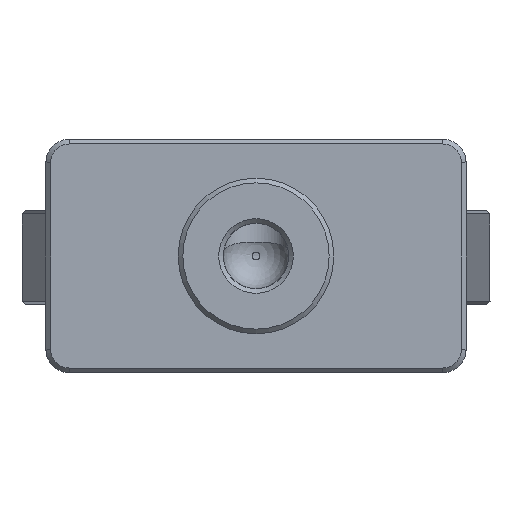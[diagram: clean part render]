
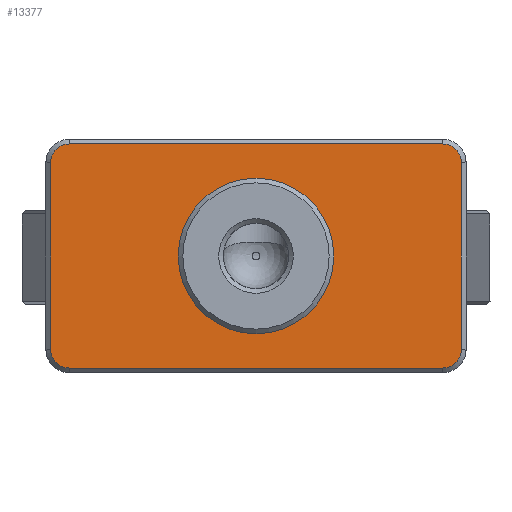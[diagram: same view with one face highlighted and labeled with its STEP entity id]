
A CAD part, front view. The second image highlights one B-rep face of the part: STEP entity #13377.
In plain terms, the highlighted planar face has unit normal (0, -1, 0).
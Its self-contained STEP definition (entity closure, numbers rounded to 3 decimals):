
#7749=FACE_BOUND('',#15604,.T.);
#7750=FACE_BOUND('',#15605,.T.);
#7914=PLANE('',#25966);
#8916=LINE('',#32409,#11130);
#8920=LINE('',#32416,#11134);
#8962=LINE('',#32658,#11176);
#8971=LINE('',#32794,#11185);
#11130=VECTOR('',#27315,1.);
#11134=VECTOR('',#27323,1.);
#11176=VECTOR('',#27483,1.);
#11185=VECTOR('',#27562,1.);
#13377=ADVANCED_FACE('',(#7749,#7750),#7914,.T.);
#15604=EDGE_LOOP('',(#17453,#17454,#17455,#17456,#17457,#17458,#17459,#17460));
#15605=EDGE_LOOP('',(#17461));
#16627=CIRCLE('',#25762,5.);
#16689=CIRCLE('',#25881,1.2);
#16691=CIRCLE('',#25885,1.2);
#16706=CIRCLE('',#25915,1.2);
#16708=CIRCLE('',#25919,1.2);
#17453=ORIENTED_EDGE('',*,*,#23419,.T.);
#17454=ORIENTED_EDGE('',*,*,#23529,.T.);
#17455=ORIENTED_EDGE('',*,*,#23532,.T.);
#17456=ORIENTED_EDGE('',*,*,#23533,.T.);
#17457=ORIENTED_EDGE('',*,*,#23423,.T.);
#17458=ORIENTED_EDGE('',*,*,#23507,.T.);
#17459=ORIENTED_EDGE('',*,*,#23505,.T.);
#17460=ORIENTED_EDGE('',*,*,#23502,.T.);
#17461=ORIENTED_EDGE('',*,*,#23340,.F.);
#21898=VERTEX_POINT('',#32113);
#21962=VERTEX_POINT('',#32408);
#21963=VERTEX_POINT('',#32410);
#21964=VERTEX_POINT('',#32417);
#21965=VERTEX_POINT('',#32418);
#22006=VERTEX_POINT('',#32649);
#22008=VERTEX_POINT('',#32655);
#22016=VERTEX_POINT('',#32788);
#22017=VERTEX_POINT('',#32793);
#23340=EDGE_CURVE('',#21898,#21898,#16627,.T.);
#23419=EDGE_CURVE('',#21963,#21962,#8916,.T.);
#23423=EDGE_CURVE('',#21964,#21965,#8920,.T.);
#23502=EDGE_CURVE('',#22006,#21963,#16689,.T.);
#23505=EDGE_CURVE('',#22008,#22006,#8962,.T.);
#23507=EDGE_CURVE('',#21965,#22008,#16691,.T.);
#23529=EDGE_CURVE('',#21962,#22016,#16706,.T.);
#23532=EDGE_CURVE('',#22016,#22017,#8971,.T.);
#23533=EDGE_CURVE('',#22017,#21964,#16708,.T.);
#25762=AXIS2_PLACEMENT_3D('',#32112,#27161,#27162);
#25881=AXIS2_PLACEMENT_3D('',#32652,#27477,#27478);
#25885=AXIS2_PLACEMENT_3D('',#32661,#27488,#27489);
#25915=AXIS2_PLACEMENT_3D('',#32789,#27555,#27556);
#25919=AXIS2_PLACEMENT_3D('',#32796,#27565,#27566);
#25966=AXIS2_PLACEMENT_3D('',#33039,#27669,#27670);
#27161=DIRECTION('',(0.,-1.,0.));
#27162=DIRECTION('',(0.,0.,-1.));
#27315=DIRECTION('',(0.,0.,-1.));
#27323=DIRECTION('',(0.,0.,1.));
#27477=DIRECTION('',(0.,-1.,0.));
#27478=DIRECTION('',(0.,0.,-1.));
#27483=DIRECTION('',(-1.,0.,0.));
#27488=DIRECTION('',(0.,-1.,0.));
#27489=DIRECTION('',(0.,0.,-1.));
#27555=DIRECTION('',(0.,-1.,0.));
#27556=DIRECTION('',(0.,0.,-1.));
#27562=DIRECTION('',(1.,0.,0.));
#27565=DIRECTION('',(0.,-1.,0.));
#27566=DIRECTION('',(0.,0.,-1.));
#27669=DIRECTION('',(0.,-1.,0.));
#27670=DIRECTION('',(0.,0.,1.));
#32112=CARTESIAN_POINT('',(88.412,-23.942,74.9));
#32113=CARTESIAN_POINT('',(88.412,-23.942,69.9));
#32408=CARTESIAN_POINT('',(75.212,-23.942,68.9));
#32409=CARTESIAN_POINT('',(75.212,-23.942,82.4));
#32410=CARTESIAN_POINT('',(75.212,-23.942,80.9));
#32416=CARTESIAN_POINT('',(101.612,-23.942,82.4));
#32417=CARTESIAN_POINT('',(101.612,-23.942,68.9));
#32418=CARTESIAN_POINT('',(101.612,-23.942,80.9));
#32649=CARTESIAN_POINT('',(76.412,-23.942,82.1));
#32652=CARTESIAN_POINT('',(76.412,-23.942,80.9));
#32655=CARTESIAN_POINT('',(100.412,-23.942,82.1));
#32658=CARTESIAN_POINT('',(76.412,-23.942,82.1));
#32661=CARTESIAN_POINT('',(100.412,-23.942,80.9));
#32788=CARTESIAN_POINT('',(76.412,-23.942,67.7));
#32789=CARTESIAN_POINT('',(76.412,-23.942,68.9));
#32793=CARTESIAN_POINT('',(100.412,-23.942,67.7));
#32794=CARTESIAN_POINT('',(100.912,-23.942,67.7));
#32796=CARTESIAN_POINT('',(100.412,-23.942,68.9));
#33039=CARTESIAN_POINT('',(100.912,-23.942,82.4));
